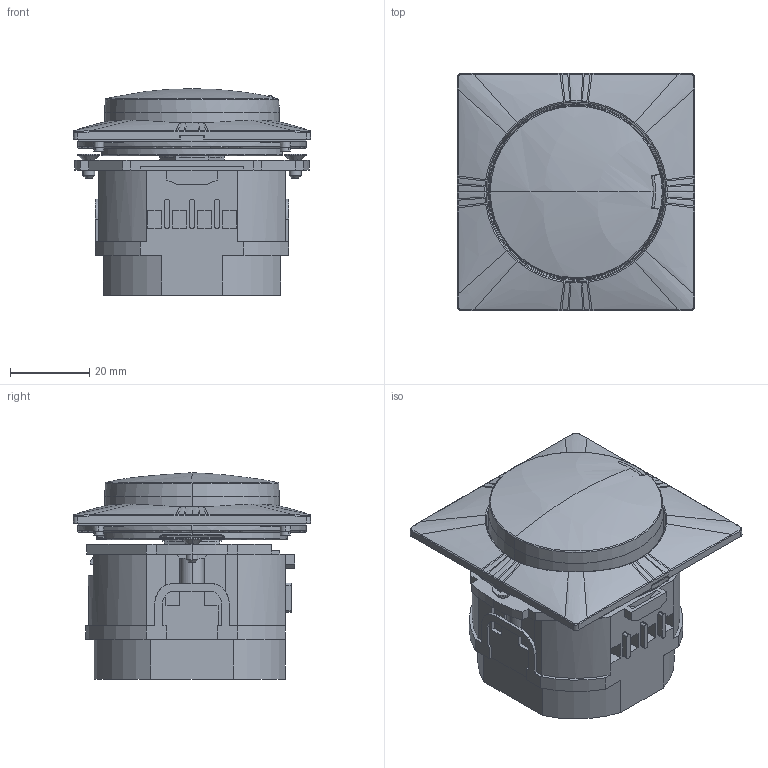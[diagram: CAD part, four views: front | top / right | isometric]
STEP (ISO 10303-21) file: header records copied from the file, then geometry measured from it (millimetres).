
FILE_DESCRIPTION((''),'2;1');
FILE_NAME('40080F61_ASM','2022-04-25T11:29:03',('SESA649505'),('Schneider-Electric'),'CREO PARAMETRIC BY PTC INC, 2019471','CREO PARAMETRIC BY PTC INC, 2019471','');
FILE_SCHEMA(('CONFIG_CONTROL_DESIGN'));
Length unit declared in the file: millimetre
Products named in the file (7): 40080F61; 221391_1; 221393_1; 021462_1; 123456_ASM; 40080F61-3D_ASM; 40080F61_ASM
Assembly tree (6 placements, depth 4):
  40080F61_ASM
    40080F61-3D_ASM
      40080F61
      123456_ASM
        221391_1
        221393_1
        021462_1
Bounding box: 59.7 x 59.7 x 52 mm (x, y, z)
Volume: 80417.6 mm3; surface area: 29642.4 mm2
Topology: 4 solids, 4 shells, 991 faces, 2648 edges, 1622 vertices
Faces by surface type: plane 395, bspline 226, cylinder 205, cone 63, torus 48, sphere 32, extrusion 22
Entity records: 47402 total; most frequent: CARTESIAN_POINT 24758, ORIENTED_EDGE 5234, DIRECTION 3947, EDGE_CURVE 2617, VERTEX_POINT 1622, AXIS2_PLACEMENT_3D 1376, VECTOR 1195, LINE 1173
